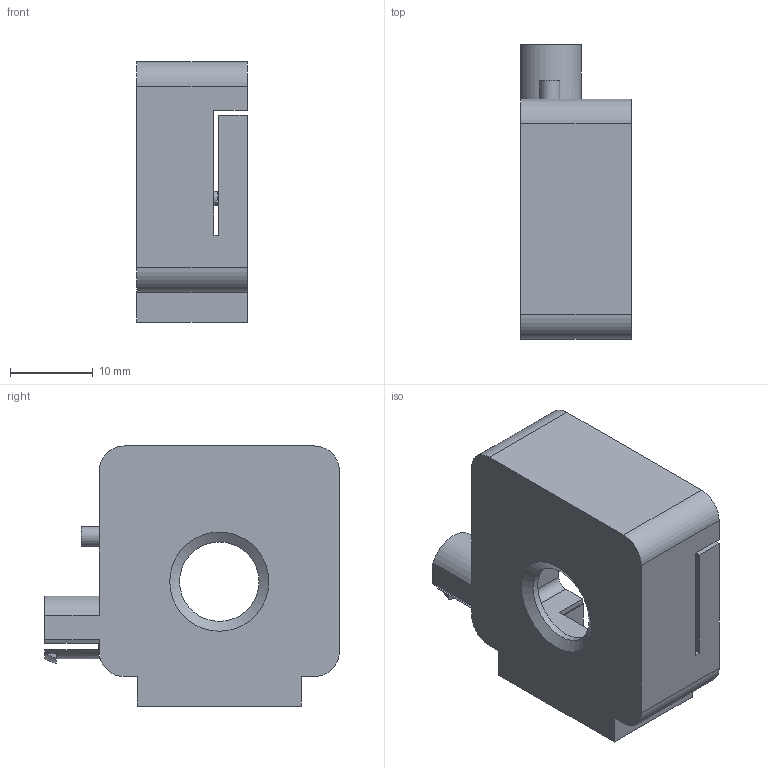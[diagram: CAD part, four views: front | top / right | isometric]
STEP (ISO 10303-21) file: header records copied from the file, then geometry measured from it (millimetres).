
FILE_DESCRIPTION(('Open CASCADE Model'),'2;1');
FILE_NAME('Open CASCADE Shape Model','2026-10-14T01:24:34',('Author'),( 'Open CASCADE'),'Open CASCADE STEP processor 8.0','build123d', 'Unknown');
FILE_SCHEMA(('AUTOMOTIVE_DESIGN { 1 0 10303 214 1 1 1 1 }'));
Length unit declared in the file: millimetre
Products named in the file (2): =>[0:1:1:2]; COMPOUND
Assembly tree (1 placements, depth 2):
  =>[0:1:1:2]
    COMPOUND
Bounding box: 13.3 x 35.6 x 31.43 mm (x, y, z)
Volume: 4237.8 mm3; surface area: 4914.3 mm2
Topology: 1 solids, 1 shells, 82 faces, 210 edges, 139 vertices
Faces by surface type: plane 61, cylinder 19, cone 2
Full cylindrical faces by diameter (mm): 1.7 x4, 2.4 x1, 3.6 x4, 9.6 x1
Entity records: 5237 total; most frequent: CARTESIAN_POINT 994, DIRECTION 781, LINE 472, VECTOR 472, ORIENTED_EDGE 420, PCURVE 420, DEFINITIONAL_REPRESENTATION 420, EDGE_CURVE 210
